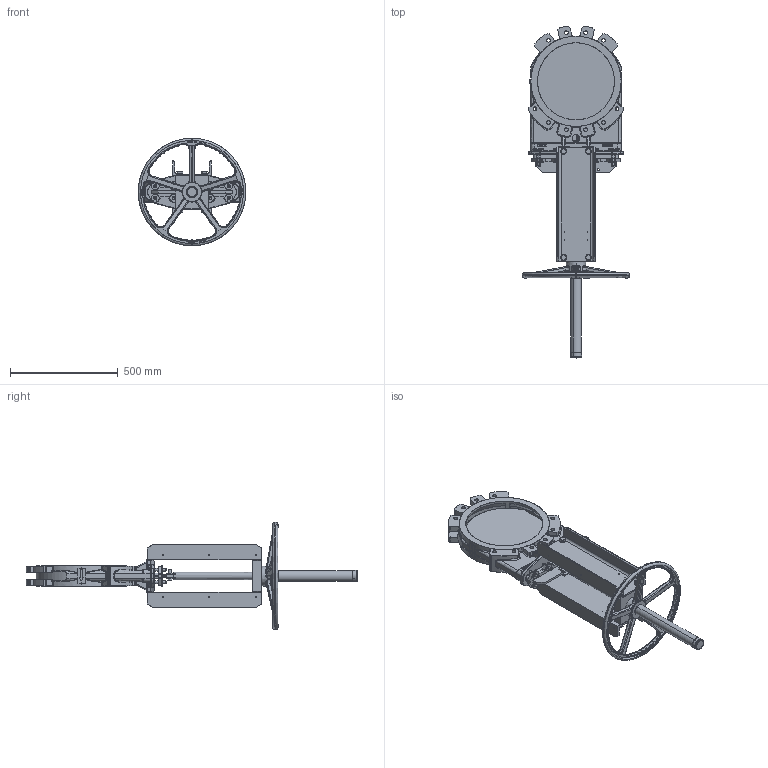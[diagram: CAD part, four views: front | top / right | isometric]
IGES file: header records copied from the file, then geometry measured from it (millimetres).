
Start section: SolidWorks IGES file using analytic representation for surfaces
Global section: file name: H:\BE BIBLIOTHEQUE 3D\BE SECTION 02 - VANNE GUILLOTINE\VG - Vanne Guillotine Standard\CAO\VG4400-00\DN350\VG4400-00NI0350.IGS; native system: SolidWorks 2020; preprocessor: SolidWorks 2020; author: a.aimard; date: 240610.090325; units: millimetre
Bounding box: 500 x 1544.16 x 500 mm (x, y, z)
Surface area: 2294534.4 mm2 (no closed solid volume)
Topology: 0 solids, 0 shells, 2022 faces, 32118 edges, 32043 vertices
Faces by surface type: bspline 1163, revolution 859
